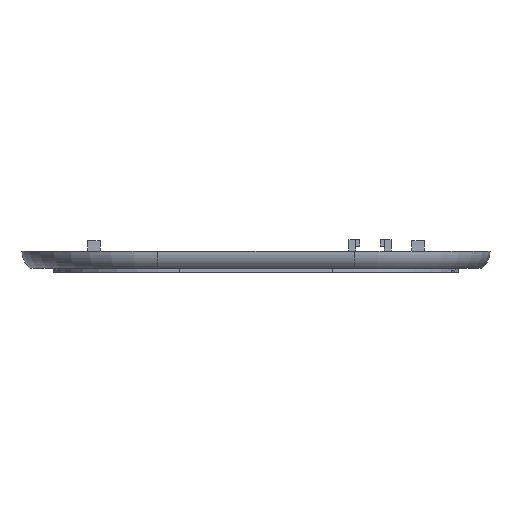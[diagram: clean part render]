
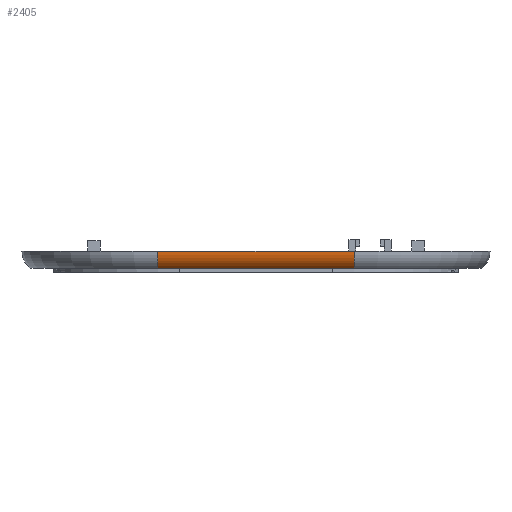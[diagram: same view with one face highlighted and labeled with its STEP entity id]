
A CAD part, front view. The second image highlights one B-rep face of the part: STEP entity #2405.
In plain terms, the highlighted cylindrical face has radius 3.8 mm (diameter 7.6 mm), a partial arc.
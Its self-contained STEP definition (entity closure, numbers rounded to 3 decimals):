
#143 = VERTEX_POINT('',#144);
#144 = CARTESIAN_POINT('',(-18.,-66.8,-9.4));
#159 = TOROIDAL_SURFACE('',#160,21.,3.8);
#160 = AXIS2_PLACEMENT_3D('',#161,#162,#163);
#161 = CARTESIAN_POINT('',(-18.,-42.,-9.4));
#162 = DIRECTION('',(-0.,-0.,-1.));
#163 = DIRECTION('',(0.,-1.,0.));
#187 = PLANE('',#188);
#188 = AXIS2_PLACEMENT_3D('',#189,#190,#191);
#189 = CARTESIAN_POINT('',(-42.8,-66.8,-13.2));
#190 = DIRECTION('',(0.,1.,0.));
#191 = DIRECTION('',(0.,-0.,1.));
#266 = PLANE('',#267);
#267 = AXIS2_PLACEMENT_3D('',#268,#269,#270);
#268 = CARTESIAN_POINT('',(-100.,-110.,-12.4));
#269 = DIRECTION('',(0.,0.,1.));
#270 = DIRECTION('',(1.,0.,-0.));
#849 = EDGE_CURVE('',#143,#850,#852,.T.);
#850 = VERTEX_POINT('',#851);
#851 = CARTESIAN_POINT('',(-18.,-65.332,-12.4));
#852 = SURFACE_CURVE('',#853,(#858,#864),.PCURVE_S1.);
#853 = CIRCLE('',#854,3.8);
#854 = AXIS2_PLACEMENT_3D('',#855,#856,#857);
#855 = CARTESIAN_POINT('',(-18.,-63.,-9.4));
#856 = DIRECTION('',(1.,0.,0.));
#857 = DIRECTION('',(0.,-1.,0.));
#858 = PCURVE('',#159,#859);
#859 = DEFINITIONAL_REPRESENTATION('',(#860),#863);
#860 = B_SPLINE_CURVE_WITH_KNOTS('',1,(#861,#862),.UNSPECIFIED.,.F.,.F.,
  (2,2),(0.,1.571),.PIECEWISE_BEZIER_KNOTS.);
#861 = CARTESIAN_POINT('',(0.,0.));
#862 = CARTESIAN_POINT('',(0.,1.571));
#863 = ( GEOMETRIC_REPRESENTATION_CONTEXT(2) 
PARAMETRIC_REPRESENTATION_CONTEXT() REPRESENTATION_CONTEXT('2D SPACE',''
  ) );
#864 = PCURVE('',#865,#870);
#865 = CYLINDRICAL_SURFACE('',#866,3.8);
#866 = AXIS2_PLACEMENT_3D('',#867,#868,#869);
#867 = CARTESIAN_POINT('',(18.,-63.,-9.4));
#868 = DIRECTION('',(-1.,-0.,-0.));
#869 = DIRECTION('',(0.,-1.,0.));
#870 = DEFINITIONAL_REPRESENTATION('',(#871),#874);
#871 = B_SPLINE_CURVE_WITH_KNOTS('',1,(#872,#873),.UNSPECIFIED.,.F.,.F.,
  (2,2),(0.,1.571),.PIECEWISE_BEZIER_KNOTS.);
#872 = CARTESIAN_POINT('',(6.283,36.));
#873 = CARTESIAN_POINT('',(4.712,36.));
#874 = ( GEOMETRIC_REPRESENTATION_CONTEXT(2) 
PARAMETRIC_REPRESENTATION_CONTEXT() REPRESENTATION_CONTEXT('2D SPACE',''
  ) );
#907 = EDGE_CURVE('',#908,#143,#910,.T.);
#908 = VERTEX_POINT('',#909);
#909 = CARTESIAN_POINT('',(18.,-66.8,-9.4));
#910 = SURFACE_CURVE('',#911,(#915,#922),.PCURVE_S1.);
#911 = LINE('',#912,#913);
#912 = CARTESIAN_POINT('',(18.,-66.8,-9.4));
#913 = VECTOR('',#914,1.);
#914 = DIRECTION('',(-1.,-0.,-0.));
#915 = PCURVE('',#187,#916);
#916 = DEFINITIONAL_REPRESENTATION('',(#917),#921);
#917 = LINE('',#918,#919);
#918 = CARTESIAN_POINT('',(3.8,60.8));
#919 = VECTOR('',#920,1.);
#920 = DIRECTION('',(0.,-1.));
#921 = ( GEOMETRIC_REPRESENTATION_CONTEXT(2) 
PARAMETRIC_REPRESENTATION_CONTEXT() REPRESENTATION_CONTEXT('2D SPACE',''
  ) );
#922 = PCURVE('',#865,#923);
#923 = DEFINITIONAL_REPRESENTATION('',(#924),#928);
#924 = LINE('',#925,#926);
#925 = CARTESIAN_POINT('',(6.283,0.));
#926 = VECTOR('',#927,1.);
#927 = DIRECTION('',(-0.,1.));
#928 = ( GEOMETRIC_REPRESENTATION_CONTEXT(2) 
PARAMETRIC_REPRESENTATION_CONTEXT() REPRESENTATION_CONTEXT('2D SPACE',''
  ) );
#1016 = EDGE_CURVE('',#1017,#850,#1019,.T.);
#1017 = VERTEX_POINT('',#1018);
#1018 = CARTESIAN_POINT('',(18.,-65.332,-12.4));
#1019 = SURFACE_CURVE('',#1020,(#1024,#1031),.PCURVE_S1.);
#1020 = LINE('',#1021,#1022);
#1021 = CARTESIAN_POINT('',(18.,-65.332,-12.4));
#1022 = VECTOR('',#1023,1.);
#1023 = DIRECTION('',(-1.,-0.,-0.));
#1024 = PCURVE('',#266,#1025);
#1025 = DEFINITIONAL_REPRESENTATION('',(#1026),#1030);
#1026 = LINE('',#1027,#1028);
#1027 = CARTESIAN_POINT('',(118.,44.668));
#1028 = VECTOR('',#1029,1.);
#1029 = DIRECTION('',(-1.,0.));
#1030 = ( GEOMETRIC_REPRESENTATION_CONTEXT(2) 
PARAMETRIC_REPRESENTATION_CONTEXT() REPRESENTATION_CONTEXT('2D SPACE',''
  ) );
#1031 = PCURVE('',#865,#1032);
#1032 = DEFINITIONAL_REPRESENTATION('',(#1033),#1036);
#1033 = B_SPLINE_CURVE_WITH_KNOTS('',1,(#1034,#1035),.UNSPECIFIED.,.F.,
  .F.,(2,2),(0.,36.),.PIECEWISE_BEZIER_KNOTS.);
#1034 = CARTESIAN_POINT('',(5.373,0.));
#1035 = CARTESIAN_POINT('',(5.373,36.));
#1036 = ( GEOMETRIC_REPRESENTATION_CONTEXT(2) 
PARAMETRIC_REPRESENTATION_CONTEXT() REPRESENTATION_CONTEXT('2D SPACE',''
  ) );
#1059 = TOROIDAL_SURFACE('',#1060,21.,3.8);
#1060 = AXIS2_PLACEMENT_3D('',#1061,#1062,#1063);
#1061 = CARTESIAN_POINT('',(18.,-42.,-9.4));
#1062 = DIRECTION('',(-0.,-0.,-1.));
#1063 = DIRECTION('',(1.,0.,-0.));
#2405 = ADVANCED_FACE('',(#2406),#865,.T.);
#2406 = FACE_BOUND('',#2407,.T.);
#2407 = EDGE_LOOP('',(#2408,#2409,#2410,#2430));
#2408 = ORIENTED_EDGE('',*,*,#849,.T.);
#2409 = ORIENTED_EDGE('',*,*,#1016,.F.);
#2410 = ORIENTED_EDGE('',*,*,#2411,.F.);
#2411 = EDGE_CURVE('',#908,#1017,#2412,.T.);
#2412 = SURFACE_CURVE('',#2413,(#2418,#2424),.PCURVE_S1.);
#2413 = CIRCLE('',#2414,3.8);
#2414 = AXIS2_PLACEMENT_3D('',#2415,#2416,#2417);
#2415 = CARTESIAN_POINT('',(18.,-63.,-9.4));
#2416 = DIRECTION('',(1.,0.,0.));
#2417 = DIRECTION('',(0.,-1.,0.));
#2418 = PCURVE('',#865,#2419);
#2419 = DEFINITIONAL_REPRESENTATION('',(#2420),#2423);
#2420 = B_SPLINE_CURVE_WITH_KNOTS('',1,(#2421,#2422),.UNSPECIFIED.,.F.,
  .F.,(2,2),(0.,1.571),.PIECEWISE_BEZIER_KNOTS.);
#2421 = CARTESIAN_POINT('',(6.283,0.));
#2422 = CARTESIAN_POINT('',(4.712,0.));
#2423 = ( GEOMETRIC_REPRESENTATION_CONTEXT(2) 
PARAMETRIC_REPRESENTATION_CONTEXT() REPRESENTATION_CONTEXT('2D SPACE',''
  ) );
#2424 = PCURVE('',#1059,#2425);
#2425 = DEFINITIONAL_REPRESENTATION('',(#2426),#2429);
#2426 = B_SPLINE_CURVE_WITH_KNOTS('',1,(#2427,#2428),.UNSPECIFIED.,.F.,
  .F.,(2,2),(0.,1.571),.PIECEWISE_BEZIER_KNOTS.);
#2427 = CARTESIAN_POINT('',(1.571,0.));
#2428 = CARTESIAN_POINT('',(1.571,1.571));
#2429 = ( GEOMETRIC_REPRESENTATION_CONTEXT(2) 
PARAMETRIC_REPRESENTATION_CONTEXT() REPRESENTATION_CONTEXT('2D SPACE',''
  ) );
#2430 = ORIENTED_EDGE('',*,*,#907,.T.);
